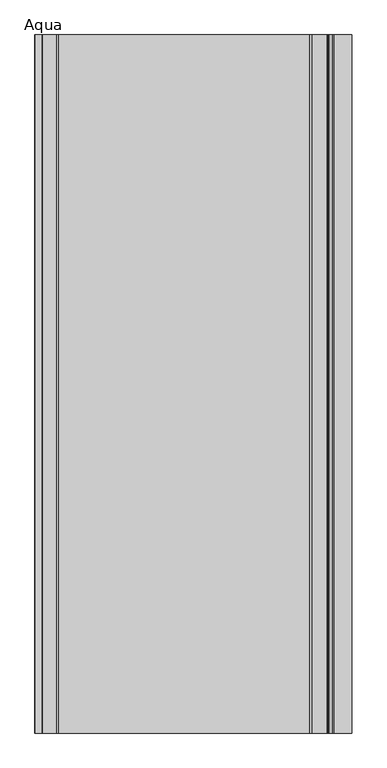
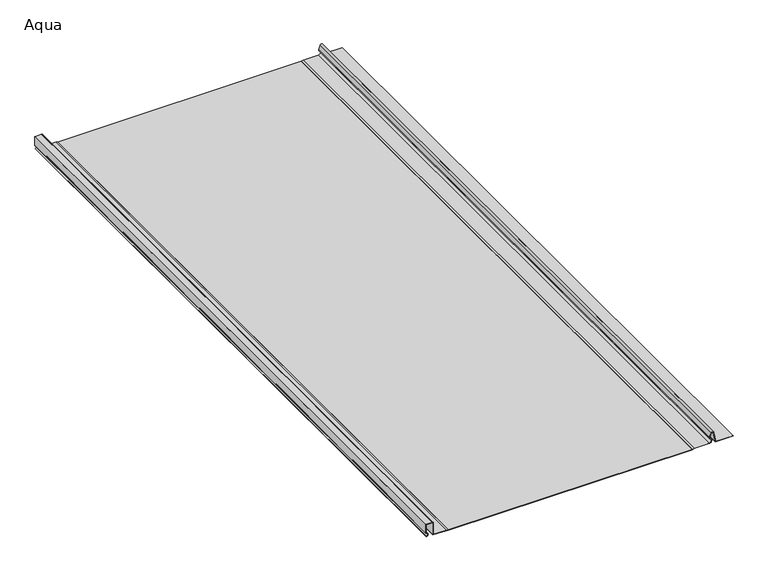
"""IFC4 building model written with IfcOpenShell, lengths in millimetres: proxy geometry, AQUAPLAST - Panel Dachowy i Elewacyjny Aqua : Aqua."""

from ifc_helpers import new_model, si_unit, point, frame, frame_2d, origin, origin_with_axes, place, context, project, spatial, polyline, circle_curve, trimmed, segment, composite_curve, outline, extrude, source, transform, mapped, element, save


def aqua_ebfceb28(model_context):
    return source(origin(), model_context, "Body", "SweptSolid", [
        extrude(outline(composite_curve([segment(polyline([(0.8, 270.9), (0.8, 240.520912)]), True, "CONTINUOUS"), segment(trimmed(circle_curve(frame_2d((1.4640676, 240.520912)), 0.6640676), [point((0.8, 240.520912))], [point((1.3501315, 239.8666916))], True, "CARTESIAN"), True, "CONTINUOUS"), segment(polyline([(1.3501315, 239.8666916), (18.7653554, 236.8337349)]), True, "CONTINUOUS"), segment(trimmed(circle_curve(frame_2d((18.1818617, 234.1906389)), 2.7067363), [point((18.7653554, 236.8337349))], [point((19.5352298, 231.8465366))], False, "CARTESIAN"), True, "CONTINUOUS"), segment(polyline([(19.5352298, 231.8465366), (12.1941629, 228.8862764)]), True, "CONTINUOUS"), segment(trimmed(circle_curve(frame_2d((11.2676679, 231.1838657)), 2.4773594), [point((12.1941629, 228.8862764))], [point((9.0024093, 230.1809133))], False, "CARTESIAN"), True, "CONTINUOUS"), segment(trimmed(circle_curve(frame_2d((5.4667311, 228.6154775)), 3.8667311), [point((9.0024093, 230.1809133))], [point((1.6, 228.6154775))], True, "CARTESIAN"), True, "CONTINUOUS"), segment(polyline([(1.6, 228.6154775), (1.6, 201.7000503), (0.8, 198.2000503), (0.0, 198.2000503), (0.8, 201.7000503), (0.8, 228.4563021)]), True, "CONTINUOUS"), segment(trimmed(circle_curve(frame_2d((5.5014361, 228.4563021)), 4.7014361), [point((0.8, 228.4563021))], [point((9.7513874, 230.4666293))], False, "CARTESIAN"), True, "CONTINUOUS"), segment(trimmed(circle_curve(frame_2d((11.2676679, 231.1838657)), 1.6773594), [point((9.7513874, 230.4666293))], [point((11.8934079, 229.6275932))], True, "CARTESIAN"), True, "CONTINUOUS"), segment(polyline([(11.8934079, 229.6275932), (19.1352298, 232.5393569)]), True, "CONTINUOUS"), segment(trimmed(circle_curve(frame_2d((18.1818617, 234.1906389)), 1.9067363), [point((19.1352298, 232.5393569))], [point((18.4803326, 236.0738697))], True, "CARTESIAN"), True, "CONTINUOUS"), segment(polyline([(18.4803326, 236.0738697), (0.6241817, 238.9038691)]), True, "CONTINUOUS"), segment(trimmed(circle_curve(frame_2d((0.7400208, 239.6347673)), 0.7400208), [point((0.6241817, 238.9038691))], [point((0.0, 239.6347673))], False, "CARTESIAN"), True, "CONTINUOUS"), segment(polyline([(0.0, 239.6347673), (0.0, 270.9), (0.8, 270.9)]), True, "CONTINUOUS")], self_intersect=False)), frame((0.0, 0.0, 0.0), z_axis=(0.0, 1.0, 0.0), x_axis=(0.0, 0.0, 1.0)), (0.0, 0.0, 1.0), 1200.0),
        extrude(outline(composite_curve([segment(polyline([(1.6, -237.5), (1.6, -260.6)]), True, "CONTINUOUS"), segment(trimmed(circle_curve(frame_2d((2.1, -260.6)), 0.5), [point((1.6, -260.6))], [point((2.1, -261.1))], True, "CARTESIAN"), True, "CONTINUOUS"), segment(polyline([(2.1, -261.1), (24.5, -261.1)]), True, "CONTINUOUS"), segment(trimmed(circle_curve(frame_2d((24.5, -261.6)), 0.5), [point((24.5, -261.1))], [point((25.0, -261.6))], False, "CARTESIAN"), True, "CONTINUOUS"), segment(polyline([(25.0, -261.6), (25.0, -273.6)]), True, "CONTINUOUS"), segment(trimmed(circle_curve(frame_2d((24.5, -273.6)), 0.5), [point((25.0, -273.6))], [point((24.5, -274.1))], False, "CARTESIAN"), True, "CONTINUOUS"), segment(polyline([(24.5, -274.1), (8.8039223, -274.1)]), True, "CONTINUOUS"), segment(trimmed(circle_curve(frame_2d((8.8039223, -273.4250457)), 0.6749543), [point((8.8039223, -274.1))], [point((8.1289934, -273.4191923))], False, "CARTESIAN"), True, "CONTINUOUS"), segment(trimmed(circle_curve(frame_2d((5.3847863, -273.4191923)), 2.7442071), [point((8.1289934, -273.4191923))], [point((2.6405793, -273.4191923))], True, "CARTESIAN"), True, "CONTINUOUS"), segment(polyline([(2.6405793, -273.4191923), (1.8403383, -273.4191923)]), True, "CONTINUOUS"), segment(trimmed(circle_curve(frame_2d((5.4137846, -273.4191923)), 3.5734462), [point((1.8403383, -273.4191923))], [point((8.9478642, -272.8902321))], False, "CARTESIAN"), True, "CONTINUOUS"), segment(trimmed(circle_curve(frame_2d((9.7850119, -272.4539484)), 0.9440125), [point((8.9478642, -272.8902321))], [point((9.7850119, -273.397961))], True, "CARTESIAN"), True, "CONTINUOUS"), segment(polyline([(9.7850119, -273.397961), (23.6993591, -273.397961)]), True, "CONTINUOUS"), segment(trimmed(circle_curve(frame_2d((23.6993591, -272.8966773)), 0.5012837), [point((23.6993591, -273.397961))], [point((24.2006428, -272.8966773))], True, "CARTESIAN"), True, "CONTINUOUS"), segment(polyline([(24.2006428, -272.8966773), (24.2006428, -262.4001579)]), True, "CONTINUOUS"), segment(trimmed(circle_curve(frame_2d((23.7003195, -262.4001579)), 0.5003233), [point((24.2006428, -262.4001579))], [point((23.7003195, -261.8998346))], True, "CARTESIAN"), True, "CONTINUOUS"), segment(polyline([(23.7003195, -261.8998346), (1.2999699, -261.8998346)]), True, "CONTINUOUS"), segment(trimmed(circle_curve(frame_2d((1.2999699, -261.3999248)), 0.4999098), [point((1.2999699, -261.8998346))], [point((0.8000601, -261.3999248))], False, "CARTESIAN"), True, "CONTINUOUS"), segment(polyline([(0.8000601, -261.3999248), (0.8000601, -237.5), (0.0, -234.0), (0.8, -234.0), (1.6, -237.5)]), True, "CONTINUOUS")], self_intersect=False)), frame((0.0, 0.0, 0.0), z_axis=(0.0, 1.0, 0.0), x_axis=(0.0, 0.0, 1.0)), (0.0, 0.0, 1.0), 1200.0),
        extrude(outline(polyline([(-234.0, 1200.0), (198.2000503, 1200.0), (198.2000503, 0.0), (-234.0, 0.0), (-234.0, 1200.0)])), origin_with_axes(), (0.0, 0.0, 1.0), 0.8),
    ])


if __name__ == "__main__":
    model = new_model("IFC4")
    model_context = context("Model", 3, world=origin())
    ifc_project = project(units=[si_unit("LENGTHUNIT", "METRE", prefix="MILLI")], contexts=[model_context])
    site = spatial("IfcSite", under=ifc_project)
    building = spatial("IfcBuilding", under=site)
    placement = place(None, origin())
    aqua_shape = aqua_ebfceb28(model_context)
    element("IfcBuildingElementProxy", 1, Name="AQUAPLAST - Panel Dachowy i Elewacyjny Aqua : Aqua", ObjectType="AQUAPLAST - Panel Dachowy i Elewacyjny Aqua : Aqua", at=placement, inside=building, context=model_context, shape_type="MappedRepresentation", body=[
        mapped(aqua_shape, transform((0.0, 0.0, 0.0), x_axis=(1.0, 0.0, 0.0), y_axis=(0.0, 1.0, 0.0), z_axis=(0.0, 0.0, 1.0))),
    ])
    save(model, "model.ifc")
